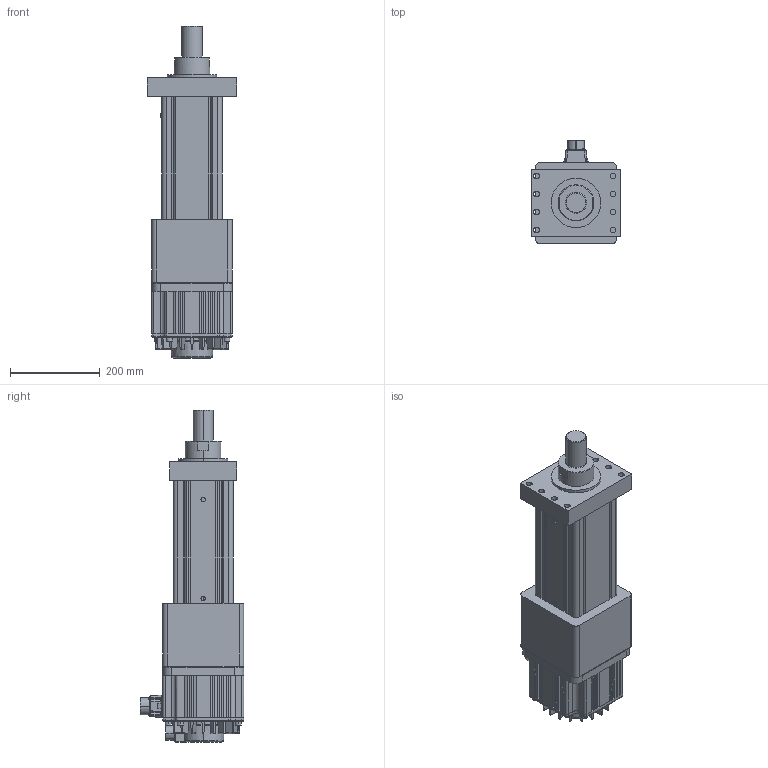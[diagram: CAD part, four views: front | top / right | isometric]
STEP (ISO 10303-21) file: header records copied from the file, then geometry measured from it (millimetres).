
FILE_DESCRIPTION (( 'STEP AP203' ), '1' );
FILE_NAME ('S5眻盄ヶ楊擘假蚾.STEP', '2024-05-27T05:34:27', ( '' ), ( '' ), 'SwSTEP 2.0', 'SolidWorks 2018', '' );
FILE_SCHEMA (( 'CONFIG_CONTROL_DESIGN' ));
Length unit declared in the file: millimetre
Products named in the file (3): S5眻盄ヶ楊擘; ECMA-EX1820RS-180框號系列機種-2KW中慣量系列; S5眻盄ヶ楊擘假蚾
Assembly tree (2 placements, depth 2):
  S5眻盄ヶ楊擘假蚾
    S5眻盄ヶ楊擘
    ECMA-EX1820RS-180框號系列機種-2KW中慣量系列
Bounding box: 200 x 230.02 x 738.7 mm (x, y, z)
Volume: 11140995.5 mm3; surface area: 928357.2 mm2
Topology: 3 solids, 15 shells, 940 faces, 2237 edges, 1413 vertices
Faces by surface type: plane 489, cylinder 346, cone 62, bspline 27, torus 16
Entity records: 29397 total; most frequent: CARTESIAN_POINT 7233, DIRECTION 4572, ORIENTED_EDGE 4470, EDGE_CURVE 2235, AXIS2_PLACEMENT_3D 1612, VERTEX_POINT 1413, LINE 1348, VECTOR 1348
